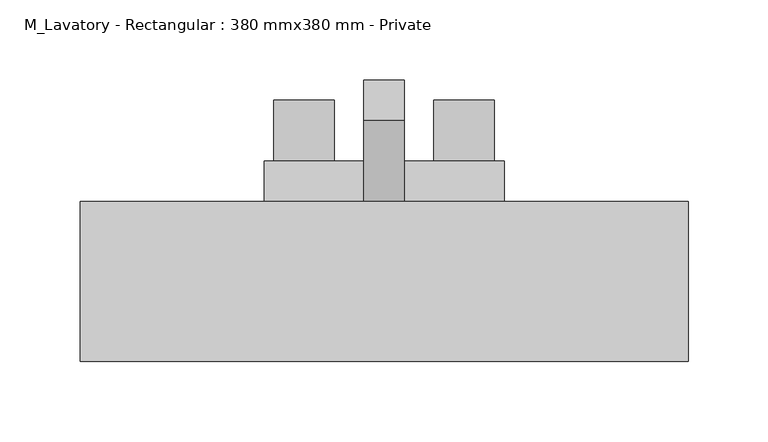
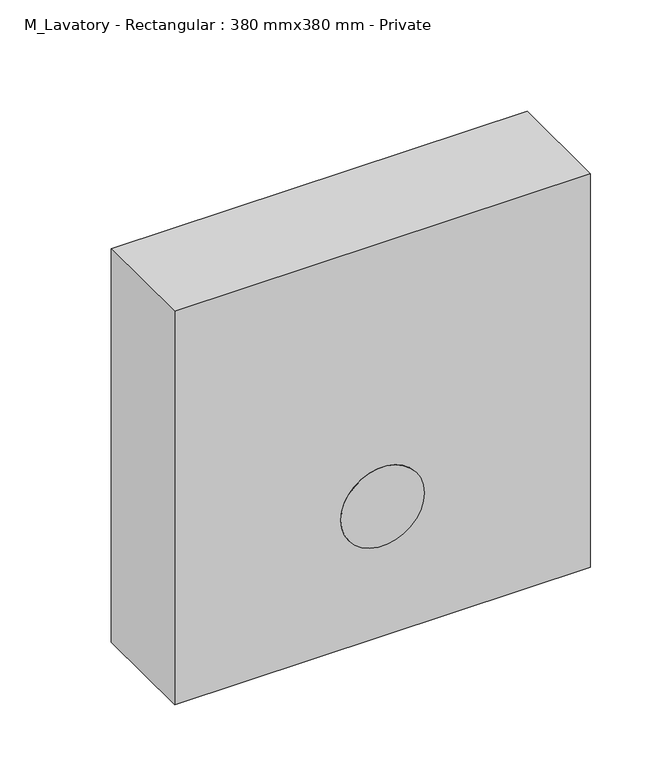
"""IFC4 building model written with IfcOpenShell, lengths in millimetres: flow terminal geometry, M_Lavatory - Rectangular : 380 mmx380 mm - Private."""

import ifcopenshell
import ifcopenshell.guid

model = None  # the IFC model being written
_history = None  # IfcOwnerHistory: only IFC2X3 demands one
_inside = {}  # id of a spatial element -> (the spatial element, [elements in it])
_under = {}  # id of a project, library or spatial element -> (it, [spatial elements below it])
_declared = {}  # id of a project -> (the project, [libraries it declares])
_typed = {}  # id of a type object -> (the type object, [elements of that type])
_made_of = {}  # id of a material, layer set ... -> (it, [elements and type objects made of it])


def new_model(schema):
    """Start an empty IFC model of exactly this schema.

    Asked for "IFC4X3", IfcOpenShell would pick the latest addendum, in which some entities
    have other attributes; the version numbers below select the first issue.
    IFC2X3 requires an IfcOwnerHistory on every rooted entity: one is made here for all.
    """
    global model, _history
    if schema == "IFC4X3":
        model = ifcopenshell.file(schema_version=(4, 3, 0, 0))
    else:
        model = ifcopenshell.file(schema=schema)
    _inside.clear()
    _under.clear()
    _declared.clear()
    _typed.clear()
    _made_of.clear()
    _history = None
    if model.schema == "IFC2X3":
        org = make("IfcOrganization", Name="unknown")
        user = make(
            "IfcPersonAndOrganization",
            ThePerson=make("IfcPerson", FamilyName="unknown"),
            TheOrganization=org,
        )
        app = make(
            "IfcApplication",
            ApplicationDeveloper=org,
            Version="unknown",
            ApplicationFullName="unknown",
            ApplicationIdentifier="unknown",
        )
        _history = make(
            "IfcOwnerHistory",
            OwningUser=user,
            OwningApplication=app,
            ChangeAction="ADDED",
            CreationDate=0,
        )
    return model


def make(cls, **values):
    """One entity of the class cls with the attributes given. An attribute that is None is left unset."""
    return model.create_entity(
        cls, **{name: value for name, value in values.items() if value is not None}
    )


def rooted(cls, **values):
    """An entity with a GlobalId (a new one), such as an element, a storey or a relation."""
    return make(cls, GlobalId=ifcopenshell.guid.new(), OwnerHistory=_history, **values)


def si_unit(unit_type, name, prefix=None):
    """IfcSIUnit, for example si_unit("LENGTHUNIT", "METRE", prefix="MILLI")."""
    return make("IfcSIUnit", UnitType=unit_type, Prefix=prefix, Name=name)


def assignment(units):
    """IfcUnitAssignment: the units of a project."""
    return None if units is None else make("IfcUnitAssignment", Units=units)


def point(xyz):
    """IfcCartesianPoint."""
    return None if xyz is None else make("IfcCartesianPoint", Coordinates=xyz)


def direction(xyz):
    """IfcDirection."""
    return None if xyz is None else make("IfcDirection", DirectionRatios=xyz)


def frame(location, z_axis=None, x_axis=None):
    """IfcAxis2Placement3D, a coordinate frame: its origin and axes. An axis left out is left unset."""
    return make(
        "IfcAxis2Placement3D",
        Location=point(location),
        Axis=direction(z_axis),
        RefDirection=direction(x_axis),
    )


def frame_2d(location, x_axis=None):
    """IfcAxis2Placement2D, a coordinate frame in the plane: its origin and x axis."""
    return make(
        "IfcAxis2Placement2D", Location=point(location), RefDirection=direction(x_axis)
    )


def origin():
    """The frame at (0, 0, 0) with its axes left unset."""
    return frame((0.0, 0.0, 0.0))


def place(relative_to, where):
    """IfcLocalPlacement: puts the frame where relative to a parent placement (None: the world)."""
    return make(
        "IfcLocalPlacement", PlacementRelTo=relative_to, RelativePlacement=where
    )


def context(
    kind, dimensions, precision=None, world=None, true_north=None, identifier=None
):
    """IfcGeometricRepresentationContext, for example the 3D "Model" context."""
    return make(
        "IfcGeometricRepresentationContext",
        ContextIdentifier=identifier,
        ContextType=kind,
        CoordinateSpaceDimension=dimensions,
        Precision=precision,
        WorldCoordinateSystem=world,
        TrueNorth=true_north,
    )


def project(units=None, contexts=None):
    """IfcProject with its units and contexts."""
    return rooted(
        "IfcProject",
        Name="project",
        RepresentationContexts=contexts,
        UnitsInContext=assignment(units),
    )


def spatial(cls, under=None, at=None, **own):
    """A site, building, storey or space (cls), placed at a placement, below another one or the project."""
    s = rooted(cls, ObjectPlacement=at, **own)
    if under is not None:
        _under.setdefault(under.id(), (under, []))[1].append(s)
    return s


def circle_curve(where, radius):
    """IfcCircle in the frame where."""
    return make("IfcCircle", Position=where, Radius=radius)


def trimmed(basis, trim1, trim2, sense, master):
    """IfcTrimmedCurve: the piece of a basis curve between two trims."""
    return make(
        "IfcTrimmedCurve",
        BasisCurve=basis,
        Trim1=trim1,
        Trim2=trim2,
        SenseAgreement=sense,
        MasterRepresentation=master,
    )


def segment(curve, same_sense, transition):
    """IfcCompositeCurveSegment."""
    return make(
        "IfcCompositeCurveSegment",
        Transition=transition,
        SameSense=same_sense,
        ParentCurve=curve,
    )


def composite_curve(segments, self_intersect=None):
    """IfcCompositeCurve: segments joined end to end."""
    return make("IfcCompositeCurve", Segments=segments, SelfIntersect=self_intersect)


def outline(outer, holes=None, kind="AREA"):
    """IfcArbitraryClosedProfileDef: a profile drawn as a closed curve; with holes, ...WithVoids."""
    if holes is None:
        return make("IfcArbitraryClosedProfileDef", ProfileType=kind, OuterCurve=outer)
    return make(
        "IfcArbitraryProfileDefWithVoids",
        ProfileType=kind,
        OuterCurve=outer,
        InnerCurves=holes,
    )


def extrude(swept, where, along, depth):
    """IfcExtrudedAreaSolid: the profile swept, set in the frame where, extruded along a direction by depth."""
    return make(
        "IfcExtrudedAreaSolid",
        SweptArea=swept,
        Position=where,
        ExtrudedDirection=direction(along),
        Depth=depth,
    )


def faces_of(points, faces, orient=None, outer=None):
    """IfcFace entities. A face is a list of loops; a loop is a list of indices into points, from 0.

    orient and outer hold one flag for each loop. By default every Orientation is true, the
    first loop of a face is its IfcFaceOuterBound and the others are IfcFaceBound.
    """
    made = []
    for i, loops in enumerate(faces):
        bounds = []
        for j, loop in enumerate(loops):
            is_outer = j == 0 if outer is None else outer[i][j]
            bounds.append(
                make(
                    "IfcFaceOuterBound" if is_outer else "IfcFaceBound",
                    Bound=make("IfcPolyLoop", Polygon=[points[k] for k in loop]),
                    Orientation=True if orient is None else orient[i][j],
                )
            )
        made.append(make("IfcFace", Bounds=bounds))
    return made


def faceted_brep(points, faces, orient=None, outer=None, voids=None):
    """IfcFacetedBrep: a solid bounded by flat faces; with voids (closed shells), ...WithVoids."""
    shared = [point(p) for p in points]
    hull = make("IfcClosedShell", CfsFaces=faces_of(shared, faces, orient, outer))
    if voids is None:
        return make("IfcFacetedBrep", Outer=hull)
    return make(
        "IfcFacetedBrepWithVoids",
        Outer=hull,
        Voids=[
            make(cls, CfsFaces=faces_of(shared, fs, o, b)) for cls, fs, o, b in voids
        ],
    )


def shape(context_of_items, identifier, shape_type, items):
    """IfcShapeRepresentation: the items that make up one representation, for example the "Body"."""
    return make(
        "IfcShapeRepresentation",
        ContextOfItems=context_of_items,
        RepresentationIdentifier=identifier,
        RepresentationType=shape_type,
        Items=items,
    )


def source(mapping_origin, context_of_items, identifier, shape_type, items):
    """IfcRepresentationMap: a shape defined once, which mapped items show again and again."""
    return make(
        "IfcRepresentationMap",
        MappingOrigin=mapping_origin,
        MappedRepresentation=shape(context_of_items, identifier, shape_type, items),
    )


def transform(
    local_origin,
    x_axis=None,
    y_axis=None,
    z_axis=None,
    scale=None,
    scale2=None,
    scale3=None,
    uniform=True,
):
    """IfcCartesianTransformationOperator3D, or its non-uniform kind. x_axis, y_axis, z_axis: its Axis1, 2, 3."""
    if uniform:
        return make(
            "IfcCartesianTransformationOperator3D",
            Axis1=direction(x_axis),
            Axis2=direction(y_axis),
            LocalOrigin=point(local_origin),
            Scale=scale,
            Axis3=direction(z_axis),
        )
    return make(
        "IfcCartesianTransformationOperator3DnonUniform",
        Axis1=direction(x_axis),
        Axis2=direction(y_axis),
        LocalOrigin=point(local_origin),
        Scale=scale,
        Axis3=direction(z_axis),
        Scale2=scale2,
        Scale3=scale3,
    )


def mapped(mapping_source, mapping_target):
    """IfcMappedItem: shows the shape of a source again, moved by a transform."""
    return make(
        "IfcMappedItem", MappingSource=mapping_source, MappingTarget=mapping_target
    )


def made_of(thing, what):
    """Note that an element or type object is made of a material, layer set ...; save() writes the relation."""
    if what is not None:
        _made_of.setdefault(what.id(), (what, []))[1].append(thing)
    return thing


def element(
    cls,
    number,
    at=None,
    inside=None,
    cuts=None,
    type_object=None,
    material=None,
    context=None,
    identifier="Body",
    shape_type=None,
    held_by="IfcProductDefinitionShape",
    body=None,
    shapes=None,
    **own,
):
    """One element of the class cls, such as IfcWall. Its Tag is "e" and its number.

    at: its placement. inside: the storey or other place that contains it. cuts: it is an
    opening in that element (IfcRelVoidsElement). A single representation is given by context,
    identifier, shape_type and body (its items); several are given by shapes. held_by: the class
    of the entity that holds the representations. save() writes the other relations.
    """
    e = rooted(cls, Tag="e%d" % number, ObjectPlacement=at, **own)
    if body is not None:
        shapes = [shape(context, identifier, shape_type, body)]
    if shapes is not None:
        e.Representation = make(held_by, Representations=shapes)
    if inside is not None:
        _inside.setdefault(inside.id(), (inside, []))[1].append(e)
    if cuts is not None:
        rooted(
            "IfcRelVoidsElement", RelatingBuildingElement=cuts, RelatedOpeningElement=e
        )
    if type_object is not None:
        _typed.setdefault(type_object.id(), (type_object, []))[1].append(e)
    return made_of(e, material)


def aggregate(whole, parts):
    """IfcRelAggregates: a whole, such as a stair, and the parts it consists of."""
    return rooted("IfcRelAggregates", RelatingObject=whole, RelatedObjects=parts)


def save(model, path):
    """Write the relations noted so far, then the file.

    IfcRelAggregates (storeys below a building ...), IfcRelContainedInSpatialStructure (elements
    in a storey), IfcRelDefinesByType, IfcRelAssociatesMaterial and IfcRelDeclares: one each for
    every whole, place, type object, material and project.
    """
    for whole, parts in _under.values():
        aggregate(whole, parts)
    for where, things in _inside.values():
        rooted(
            "IfcRelContainedInSpatialStructure",
            RelatedElements=things,
            RelatingStructure=where,
        )
    for kind, things in _typed.values():
        rooted("IfcRelDefinesByType", RelatedObjects=things, RelatingType=kind)
    for what, things in _made_of.values():
        rooted("IfcRelAssociatesMaterial", RelatedObjects=things, RelatingMaterial=what)
    for by, libraries in _declared.values():
        rooted("IfcRelDeclares", RelatingContext=by, RelatedDefinitions=libraries)
    model.write(path)


def plane_surface(at):
    """IfcPlane: the flat surface through the origin of the frame at, square to its z axis."""
    return make("IfcPlane", Position=at)


def cylinder_surface(at, radius):
    """IfcCylindricalSurface: all points at the distance radius from the z axis of the frame at."""
    return make("IfcCylindricalSurface", Position=at, Radius=radius)


def advanced_brep(points, edges, surfaces, faces):
    """IfcAdvancedBrep: a solid bounded by faces that lie on surfaces and meet in shared edges.

    An edge is (start, end): straight between two places in points (the first is 0);
    or (start, end, curve); or (start, end, curve, False) where it runs against its curve.
    A face is (place in surfaces, loops), or (place, loops, False) where it looks against
    its surface's normal. A loop lists edges by number (the first is 1), with a minus sign
    where the edge is run from its end to its start. The first loop is the outer one.
    """
    corners = [point(p) for p in points]
    vertices = [make("IfcVertexPoint", VertexGeometry=c) for c in corners]
    made = []
    for start, end, *more in edges:
        made.append(
            make(
                "IfcEdgeCurve",
                EdgeStart=vertices[start],
                EdgeEnd=vertices[end],
                EdgeGeometry=more[0] if more else make("IfcPolyline", Points=[corners[start], corners[end]]),
                SameSense=more[1] if len(more) > 1 else True,
            )
        )
    hull = []
    for where, loops, *sense in faces:
        bounds = []
        for j, loop in enumerate(loops):
            ring = [make("IfcOrientedEdge", EdgeElement=made[abs(k) - 1], Orientation=k > 0) for k in loop]
            bounds.append(
                make(
                    "IfcFaceOuterBound" if j == 0 else "IfcFaceBound",
                    Bound=make("IfcEdgeLoop", EdgeList=ring),
                    Orientation=True,
                )
            )
        hull.append(make("IfcAdvancedFace", Bounds=bounds, FaceSurface=surfaces[where], SameSense=sense[0] if sense else True))
    return make("IfcAdvancedBrep", Outer=make("IfcClosedShell", CfsFaces=hull))


def m_lavatory_rectangular_380_mmx380_mm_private_9cb69c6e(model_context):
    return source(origin(), model_context, "Body", "SolidModel", [
        advanced_brep(
        [(-75.0, 0.0, 63.5), (-75.0, 0.0, 12.7), (75.0, 0.0, 12.7), (75.0, 0.0, 63.5), (12.7, 0.0, 63.5), (-12.7, 0.0, 63.5), (75.0, 25.4, 63.5), (75.0, 25.4, 12.7), (-75.0, 25.4, 12.7), (-75.0, 25.4, 63.5), (-12.7, 25.4, 63.5), (12.7, 25.4, 63.5), (30.95, 25.4, 38.1), (69.05, 25.4, 38.1), (-69.05, 25.4, 38.1), (-30.95, 25.4, 38.1), (30.95, 63.5, 38.1), (69.05, 63.5, 38.1), (-69.05, 63.5, 38.1), (-30.95, 63.5, 38.1), (12.7, 50.8, 151.488181), (12.7, 76.2, 151.488181), (-12.7, 50.8, 151.488181), (-12.7, 76.2, 151.488181)],
        [
            (0, 1),
            (1, 2),
            (2, 3),
            (3, 4),
            (4, 5),
            (5, 0),
            (6, 7),
            (7, 8),
            (8, 9),
            (9, 10),
            (10, 11),
            (11, 6),
            (12, 13, circle_curve(frame((50.0, 25.4, 38.1), z_axis=(0.0, -1.0, 0.0), x_axis=(1.0, 0.0, 0.0)), 19.05)),
            (13, 12, circle_curve(frame((50.0, 25.4, 38.1), z_axis=(0.0, -1.0, 0.0), x_axis=(1.0, 0.0, 0.0)), 19.05)),
            (14, 15, circle_curve(frame((-50.0, 25.4, 38.1), z_axis=(0.0, -1.0, 0.0), x_axis=(1.0, 0.0, 0.0)), 19.05)),
            (15, 14, circle_curve(frame((-50.0, 25.4, 38.1), z_axis=(0.0, -1.0, 0.0), x_axis=(1.0, 0.0, 0.0)), 19.05)),
            (0, 9),
            (8, 1),
            (7, 2),
            (6, 3),
            (5, 10),
            (11, 4),
            (16, 17, circle_curve(frame((50.0, 63.5, 38.1), z_axis=(0.0, 1.0, 0.0), x_axis=(1.0, 0.0, 0.0)), 19.05)),
            (17, 16, circle_curve(frame((50.0, 63.5, 38.1), z_axis=(0.0, 1.0, 0.0), x_axis=(1.0, 0.0, 0.0)), 19.05)),
            (18, 19, circle_curve(frame((-50.0, 63.5, 38.1), z_axis=(0.0, 1.0, 0.0), x_axis=(1.0, 0.0, 0.0)), 19.05)),
            (19, 18, circle_curve(frame((-50.0, 63.5, 38.1), z_axis=(0.0, 1.0, 0.0), x_axis=(1.0, 0.0, 0.0)), 19.05)),
            (17, 13),
            (12, 16),
            (19, 15),
            (14, 18),
            (20, 4),
            (11, 21),
            (21, 20),
            (22, 23),
            (23, 10),
            (5, 22),
            (20, 22),
            (23, 21),
        ],
        [
            plane_surface(frame((-75.0, 0.0, 63.5), z_axis=(0.0, -1.0, 0.0), x_axis=(0.0, 0.0, -1.0))),
            plane_surface(frame((-75.0, 25.4, 63.5), z_axis=(0.0, 1.0, 0.0), x_axis=(0.0, 0.0, 1.0))),
            plane_surface(frame((-75.0, 0.0, 63.5), z_axis=(-1.0, 0.0, 0.0), x_axis=(0.0, 1.0, 0.0))),
            plane_surface(frame((-75.0, 0.0, 12.7), z_axis=(0.0, 0.0, -1.0), x_axis=(0.0, 1.0, 0.0))),
            plane_surface(frame((75.0, 0.0, 12.7), z_axis=(1.0, 0.0, 0.0), x_axis=(0.0, 1.0, 0.0))),
            plane_surface(frame((75.0, 0.0, 63.5), z_axis=(0.0, 0.0, 1.0), x_axis=(0.0, 1.0, 0.0))),
            plane_surface(frame((69.05, 63.5, 38.1), z_axis=(0.0, 1.0, 0.0), x_axis=(0.0, 0.0, -1.0))),
            cylinder_surface(frame((50.0, 63.5, 38.1), z_axis=(0.0, -1.0, 0.0), x_axis=(1.0, 0.0, 0.0)), 19.05),
            cylinder_surface(frame((-50.0, 0.0, 38.1), z_axis=(0.0, -1.0, 0.0), x_axis=(1.0, 0.0, 0.0)), 19.05),
            plane_surface(frame((12.7, 0.0, 63.5), z_axis=(1.0, 0.0, 0.0), x_axis=(0.0, -0.4999999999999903, -0.8660254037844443))),
            plane_surface(frame((-12.7, 0.0, 63.5), z_axis=(-1.0, 0.0, 0.0), x_axis=(0.0, 0.4999999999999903, 0.8660254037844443))),
            plane_surface(frame((12.7, 50.8, 151.488181), z_axis=(0.0, -0.8660254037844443, 0.4999999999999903), x_axis=(-1.0, 0.0, 0.0))),
            plane_surface(frame((12.7, 25.4, 63.5), z_axis=(0.0, 0.8660254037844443, -0.4999999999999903), x_axis=(-1.0, 0.0, 0.0))),
            plane_surface(frame((12.7, 76.2, 151.488181), z_axis=(0.0, 0.0, 1.0), x_axis=(-1.0, 0.0, 0.0))),
        ],
        [
            (0, [[1, 2, 3, 4, 5, 6]]),
            (1, [[7, 8, 9, 10, 11, 12], [13, 14], [15, 16]]),
            (2, [[-1, 17, -9, 18]]),
            (3, [[-2, -18, -8, 19]]),
            (4, [[-3, -19, -7, 20]]),
            (5, [[-17, -6, 21, -10]]),
            (5, [[-20, -12, 22, -4]]),
            (6, [[23, 24]]),
            (6, [[25, 26]]),
            (7, [[-24, 27, -13, 28]]),
            (7, [[-23, -28, -14, -27]]),
            (8, [[-26, 29, -15, 30]]),
            (8, [[-25, -30, -16, -29]]),
            (9, [[31, -22, 32, 33]]),
            (10, [[34, 35, -21, 36]]),
            (11, [[-31, 37, -36, -5]]),
            (12, [[-32, -11, -35, 38]]),
            (13, [[-33, -38, -34, -37]]),
        ],
    ),
        extrude(outline(composite_curve([segment(trimmed(circle_curve(frame_2d((125.0, 0.0)), 38.1), [point((125.0, -38.1))], [point((125.0, 38.1))], False, "CARTESIAN"), True, "CONTINUOUS"), segment(trimmed(circle_curve(frame_2d((125.0, 0.0)), 38.1), [point((125.0, 38.1))], [point((125.0, -38.1))], False, "CARTESIAN"), True, "CONTINUOUS")], self_intersect=False)), frame((0.0, -100.0, 0.0), z_axis=(0.0, 1.0, 0.0), x_axis=(0.0, 0.0, 1.0)), (0.0, 0.0, 1.0), 23.8),
        faceted_brep([(-190.0, -100.0, 380.0), (-190.0, -100.0, 0.0), (190.0, -100.0, 0.0), (190.0, -100.0, 380.0), (-190.0, 0.0, 380.0), (190.0, 0.0, 380.0), (190.0, 0.0, 0.0), (-190.0, 0.0, 0.0), (-139.5, 0.0, 330.2), (-139.5, 0.0, 76.2), (139.5, 0.0, 76.2), (139.5, 0.0, 330.2), (-114.1, -76.2, 305.2), (114.1, -76.2, 305.2), (114.1, -76.2, 76.2), (-114.1, -76.2, 76.2)], [[[0, 1, 2, 3]], [[4, 5, 6, 7], [8, 9, 10, 11]], [[1, 0, 4, 7]], [[2, 1, 7, 6]], [[3, 2, 6, 5]], [[0, 3, 5, 4]], [[12, 13, 14, 15]], [[12, 15, 9, 8]], [[15, 14, 10, 9]], [[14, 13, 11, 10]], [[13, 12, 8, 11]]]),
    ])


if __name__ == "__main__":
    model = new_model("IFC4")
    model_context = context("Model", 3, world=origin())
    ifc_project = project(units=[si_unit("LENGTHUNIT", "METRE", prefix="MILLI")], contexts=[model_context])
    site = spatial("IfcSite", under=ifc_project)
    building = spatial("IfcBuilding", under=site)
    placement = place(None, origin())
    m_lavatory_rectangular_380_mmx380_mm_private_shape = m_lavatory_rectangular_380_mmx380_mm_private_9cb69c6e(model_context)
    element("IfcFlowTerminal", 1, ObjectType="M_Lavatory - Rectangular : 380 mmx380 mm - Private", at=placement, inside=building, context=model_context, shape_type="MappedRepresentation", body=[
        mapped(m_lavatory_rectangular_380_mmx380_mm_private_shape, transform((0.0, 0.0, 0.0), x_axis=(1.0, 0.0, 0.0), y_axis=(0.0, 1.0, 0.0), z_axis=(0.0, 0.0, 1.0))),
    ])
    save(model, "model.ifc")
